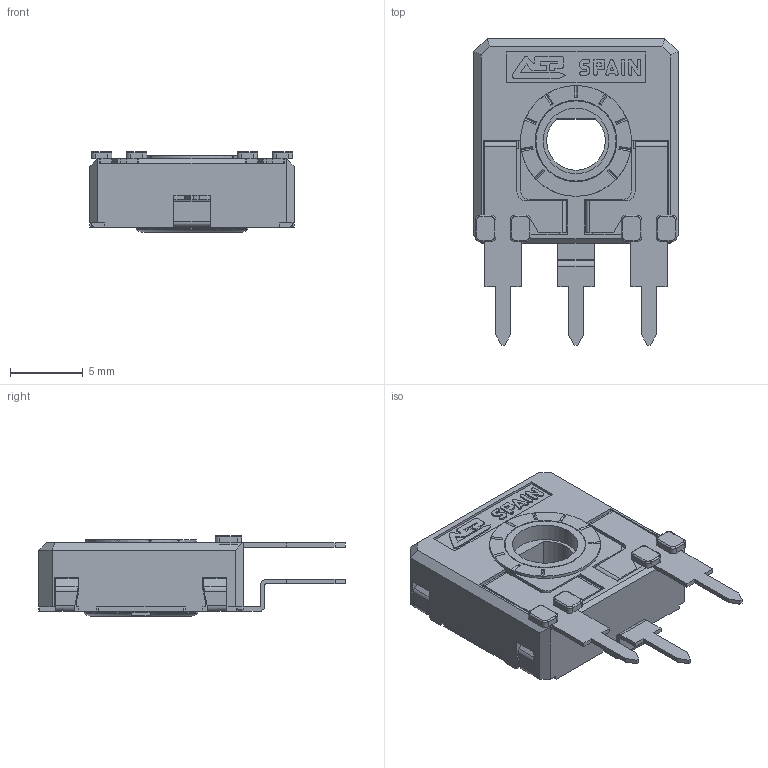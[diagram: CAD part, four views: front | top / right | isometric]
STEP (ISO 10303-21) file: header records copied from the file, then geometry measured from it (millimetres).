
FILE_DESCRIPTION(/* description */ (''),/* implementation_level */ '2;1');
FILE_NAME(/* name */ 'C:\Users\CEM\Desktop\ENVIAR\TRANSICION 3D CATALOGOS\RS14FH2,5 RT-RO.stp',/* time_stamp */ '2025-12-10T10:40:03+01:00',/* author */ ('CEM'),/* organization */ (''),/* preprocessor_version */ 'ST-DEVELOPER v16.13',/* originating_system */ 'Autodesk Inventor 2018',/* authorisation */ '');
FILE_SCHEMA (('AUTOMOTIVE_DESIGN { 1 0 10303 214 3 1 1 }'));
Length unit declared in the file: millimetre
Products named in the file (1): CA14NH2,5
Bounding box: 14 x 21 x 5.55 mm (x, y, z)
Volume: 520.9 mm3; surface area: 1442.7 mm2
Topology: 1 solids, 1 shells, 661 faces, 1857 edges, 1193 vertices
Faces by surface type: plane 490, cylinder 134, torus 23, bspline 8, cone 6
Full cylindrical faces by diameter (mm): 4.5 x1, 5.5 x1, 5.6 x1, 5.752 x1, 6.8 x1, 7.6 x1
Entity records: 21354 total; most frequent: CARTESIAN_POINT 3904, ORIENTED_EDGE 3684, DIRECTION 3474, EDGE_CURVE 1842, LINE 1462, VECTOR 1462, VERTEX_POINT 1188, AXIS2_PLACEMENT_3D 1006
